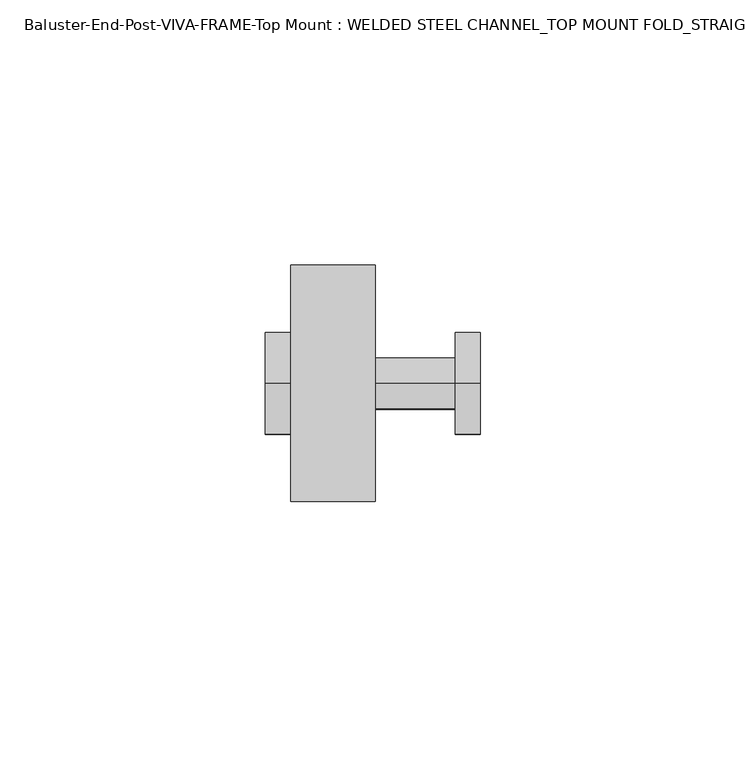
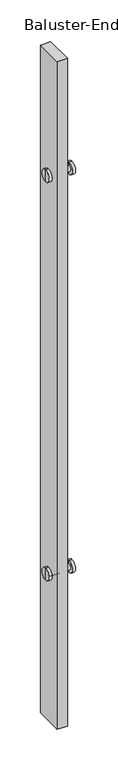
"""IFC4 building model written with IfcOpenShell, lengths in millimetres: proxy geometry, Baluster-End-Post-VIVA-FRAME-Top Mount : WELDED STEEL CHANNEL_TOP MOUNT FOLD_STRAIGHT."""

from ifc_helpers import new_model, si_unit, frame, origin, place, context, project, spatial, polyline, circle_curve, outline, extrude, source, transform, mapped, element, save
from ifc_brep_helpers import plane_surface, cylinder_surface, advanced_brep


def baluster_end_post_viva_frame_top_mount_welded_steel_channel_d86172e0(model_context):
    return source(origin(), model_context, "Body", "SolidModel", [
        extrude(outline(polyline([(7.9375, -78.2802567), (7.9375, -122.7302567), (-7.9375, -122.7302567), (-7.9375, -78.2802567), (7.9375, -78.2802567)])), frame((0.0, 0.0, 0.5143555), z_axis=(0.0, 0.0, 1.0), x_axis=(1.0, 0.0, 0.0)), (0.0, 0.0, 1.0), 1085.6546218),
        advanced_brep(
        [(-12.7127, -100.5078, 231.7496), (-12.7127, -100.5078, 250.8504), (-12.7127, -100.5078, 241.3), (-7.9375, -100.5078, 231.7496), (-7.9375, -100.5078, 250.8504), (-7.9375, -100.5078, 236.5248), (-7.9375, -100.5078, 246.0752), (22.9997, -100.5078, 236.5248), (22.9997, -100.5078, 246.0752), (22.9997, -100.5078, 231.7496), (22.9997, -100.5078, 250.8504), (27.7749, -100.5078, 231.7496), (27.7749, -100.5078, 250.8504), (27.7749, -100.5078, 241.3)],
        [
            (0, 1, circle_curve(frame((-12.7127, -100.5078, 241.3), z_axis=(-1.0, 0.0, 0.0), x_axis=(0.0, 0.0, 1.0)), 9.5504)),
            (1, 2),
            (2, 0),
            (1, 0, circle_curve(frame((-12.7127, -100.5078, 241.3), z_axis=(-1.0, 0.0, 0.0), x_axis=(0.0, 0.0, 1.0)), 9.5504)),
            (3, 4, circle_curve(frame((-7.9375, -100.5078, 241.3), z_axis=(-1.0, 0.0, 0.0), x_axis=(0.0, 0.0, 1.0)), 9.5504)),
            (4, 1),
            (0, 3),
            (4, 3, circle_curve(frame((-7.9375, -100.5078, 241.3), z_axis=(-1.0, 0.0, 0.0), x_axis=(0.0, 0.0, 1.0)), 9.5504)),
            (5, 6, circle_curve(frame((-7.9375, -100.5078, 241.3), z_axis=(-1.0, 0.0, 0.0), x_axis=(0.0, 0.0, 1.0)), 4.7752)),
            (6, 4),
            (3, 5),
            (6, 5, circle_curve(frame((-7.9375, -100.5078, 241.3), z_axis=(-1.0, 0.0, 0.0), x_axis=(0.0, 0.0, 1.0)), 4.7752)),
            (7, 8, circle_curve(frame((22.9997, -100.5078, 241.3), z_axis=(-1.0, 0.0, 0.0), x_axis=(0.0, 0.0, 1.0)), 4.7752)),
            (8, 6),
            (5, 7),
            (8, 7, circle_curve(frame((22.9997, -100.5078, 241.3), z_axis=(-1.0, 0.0, 0.0), x_axis=(0.0, 0.0, 1.0)), 4.7752)),
            (9, 10, circle_curve(frame((22.9997, -100.5078, 241.3), z_axis=(-1.0, 0.0, 0.0), x_axis=(0.0, 0.0, 1.0)), 9.5504)),
            (10, 8),
            (7, 9),
            (10, 9, circle_curve(frame((22.9997, -100.5078, 241.3), z_axis=(-1.0, 0.0, 0.0), x_axis=(0.0, 0.0, 1.0)), 9.5504)),
            (11, 12, circle_curve(frame((27.7749, -100.5078, 241.3), z_axis=(-1.0, 0.0, 0.0), x_axis=(0.0, 0.0, 1.0)), 9.5504)),
            (12, 10),
            (9, 11),
            (12, 11, circle_curve(frame((27.7749, -100.5078, 241.3), z_axis=(-1.0, 0.0, 0.0), x_axis=(0.0, 0.0, 1.0)), 9.5504)),
            (13, 12),
            (11, 13),
        ],
        [
            plane_surface(frame((-12.7127, -100.5078, 241.3), z_axis=(-1.0, 0.0, 0.0), x_axis=(0.0, 0.0, 1.0))),
            cylinder_surface(frame((-3404.2930571, -100.5078, 241.3), z_axis=(1.0, 0.0, 0.0), x_axis=(0.0, 0.0, 1.0)), 9.5504),
            plane_surface(frame((-7.9375, -100.5078, 241.3), z_axis=(1.0, 0.0, 0.0), x_axis=(0.0, 0.0, 1.0))),
            cylinder_surface(frame((-3404.2930571, -100.5078, 241.3), z_axis=(1.0, 0.0, 0.0), x_axis=(0.0, 0.0, 1.0)), 4.7752),
            plane_surface(frame((22.9997, -100.5078, 241.3), z_axis=(-1.0, 0.0, 0.0), x_axis=(0.0, 0.0, 1.0))),
            plane_surface(frame((27.7749, -100.5078, 241.3), z_axis=(1.0, 0.0, 0.0), x_axis=(0.0, 0.0, 1.0))),
        ],
        [
            (0, [[1, 2, 3]]),
            (0, [[4, -3, -2]]),
            (1, [[5, 6, -1, 7]]),
            (1, [[8, -7, -4, -6]]),
            (2, [[9, 10, -5, 11]]),
            (2, [[12, -11, -8, -10]]),
            (3, [[13, 14, -9, 15]]),
            (3, [[16, -15, -12, -14]]),
            (4, [[17, 18, -13, 19]]),
            (4, [[20, -19, -16, -18]]),
            (1, [[21, 22, -17, 23]]),
            (1, [[24, -23, -20, -22]]),
            (5, [[25, -21, 26]]),
            (5, [[-26, -24, -25]]),
        ],
    ),
        advanced_brep(
        [(-12.7127, -100.5078, 879.4559555), (-12.7127, -100.5078, 898.5567555), (-12.7127, -100.5078, 889.0063555), (-7.9375, -100.5078, 879.4559555), (-7.9375, -100.5078, 898.5567555), (-7.9375, -100.5078, 884.2311555), (-7.9375, -100.5078, 893.7815555), (22.9997, -100.5078, 884.2311555), (22.9997, -100.5078, 893.7815555), (22.9997, -100.5078, 879.4559555), (22.9997, -100.5078, 898.5567555), (27.7749, -100.5078, 879.4559555), (27.7749, -100.5078, 898.5567555), (27.7749, -100.5078, 889.0063555)],
        [
            (0, 1, circle_curve(frame((-12.7127, -100.5078, 889.0063555), z_axis=(-1.0, 0.0, 0.0), x_axis=(0.0, 0.0, 1.0)), 9.5504)),
            (1, 2),
            (2, 0),
            (1, 0, circle_curve(frame((-12.7127, -100.5078, 889.0063555), z_axis=(-1.0, 0.0, 0.0), x_axis=(0.0, 0.0, 1.0)), 9.5504)),
            (3, 4, circle_curve(frame((-7.9375, -100.5078, 889.0063555), z_axis=(-1.0, 0.0, 0.0), x_axis=(0.0, 0.0, 1.0)), 9.5504)),
            (4, 1),
            (0, 3),
            (4, 3, circle_curve(frame((-7.9375, -100.5078, 889.0063555), z_axis=(-1.0, 0.0, 0.0), x_axis=(0.0, 0.0, 1.0)), 9.5504)),
            (5, 6, circle_curve(frame((-7.9375, -100.5078, 889.0063555), z_axis=(-1.0, 0.0, 0.0), x_axis=(0.0, 0.0, 1.0)), 4.7752)),
            (6, 4),
            (3, 5),
            (6, 5, circle_curve(frame((-7.9375, -100.5078, 889.0063555), z_axis=(-1.0, 0.0, 0.0), x_axis=(0.0, 0.0, 1.0)), 4.7752)),
            (7, 8, circle_curve(frame((22.9997, -100.5078, 889.0063555), z_axis=(-1.0, 0.0, 0.0), x_axis=(0.0, 0.0, 1.0)), 4.7752)),
            (8, 6),
            (5, 7),
            (8, 7, circle_curve(frame((22.9997, -100.5078, 889.0063555), z_axis=(-1.0, 0.0, 0.0), x_axis=(0.0, 0.0, 1.0)), 4.7752)),
            (9, 10, circle_curve(frame((22.9997, -100.5078, 889.0063555), z_axis=(-1.0, 0.0, 0.0), x_axis=(0.0, 0.0, 1.0)), 9.5504)),
            (10, 8),
            (7, 9),
            (10, 9, circle_curve(frame((22.9997, -100.5078, 889.0063555), z_axis=(-1.0, 0.0, 0.0), x_axis=(0.0, 0.0, 1.0)), 9.5504)),
            (11, 12, circle_curve(frame((27.7749, -100.5078, 889.0063555), z_axis=(-1.0, 0.0, 0.0), x_axis=(0.0, 0.0, 1.0)), 9.5504)),
            (12, 10),
            (9, 11),
            (12, 11, circle_curve(frame((27.7749, -100.5078, 889.0063555), z_axis=(-1.0, 0.0, 0.0), x_axis=(0.0, 0.0, 1.0)), 9.5504)),
            (13, 12),
            (11, 13),
        ],
        [
            plane_surface(frame((-12.7127, -100.5078, 889.0063555), z_axis=(-1.0, 0.0, 0.0), x_axis=(0.0, 0.0, 1.0))),
            cylinder_surface(frame((-3404.2930571, -100.5078, 889.0063555), z_axis=(1.0, 0.0, 0.0), x_axis=(0.0, 0.0, 1.0)), 9.5504),
            plane_surface(frame((-7.9375, -100.5078, 889.0063555), z_axis=(1.0, 0.0, 0.0), x_axis=(0.0, 0.0, 1.0))),
            cylinder_surface(frame((-3404.2930571, -100.5078, 889.0063555), z_axis=(1.0, 0.0, 0.0), x_axis=(0.0, 0.0, 1.0)), 4.7752),
            plane_surface(frame((22.9997, -100.5078, 889.0063555), z_axis=(-1.0, 0.0, 0.0), x_axis=(0.0, 0.0, 1.0))),
            plane_surface(frame((27.7749, -100.5078, 889.0063555), z_axis=(1.0, 0.0, 0.0), x_axis=(0.0, 0.0, 1.0))),
        ],
        [
            (0, [[1, 2, 3]]),
            (0, [[4, -3, -2]]),
            (1, [[5, 6, -1, 7]]),
            (1, [[8, -7, -4, -6]]),
            (2, [[9, 10, -5, 11]]),
            (2, [[12, -11, -8, -10]]),
            (3, [[13, 14, -9, 15]]),
            (3, [[16, -15, -12, -14]]),
            (4, [[17, 18, -13, 19]]),
            (4, [[20, -19, -16, -18]]),
            (1, [[21, 22, -17, 23]]),
            (1, [[24, -23, -20, -22]]),
            (5, [[25, -21, 26]]),
            (5, [[-26, -24, -25]]),
        ],
    ),
    ])


if __name__ == "__main__":
    model = new_model("IFC4")
    model_context = context("Model", 3, world=origin())
    ifc_project = project(units=[si_unit("LENGTHUNIT", "METRE", prefix="MILLI")], contexts=[model_context])
    site = spatial("IfcSite", under=ifc_project)
    building = spatial("IfcBuilding", under=site)
    placement = place(None, origin())
    baluster_end_post_viva_frame_top_mount_welded_steel_channel_shape = baluster_end_post_viva_frame_top_mount_welded_steel_channel_d86172e0(model_context)
    element("IfcBuildingElementProxy", 1, Name="Baluster-End-Post-VIVA-FRAME-Top Mount : WELDED STEEL CHANNEL_TOP MOUNT FOLD_STRAIGHT", ObjectType="Baluster-End-Post-VIVA-FRAME-Top Mount : WELDED STEEL CHANNEL_TOP MOUNT FOLD_STRAIGHT", at=placement, inside=building, context=model_context, shape_type="MappedRepresentation", body=[
        mapped(baluster_end_post_viva_frame_top_mount_welded_steel_channel_shape, transform((0.0, 0.0, 0.0), x_axis=(1.0, 0.0, 0.0), y_axis=(0.0, 1.0, 0.0), z_axis=(0.0, 0.0, 1.0))),
    ])
    save(model, "model.ifc")
